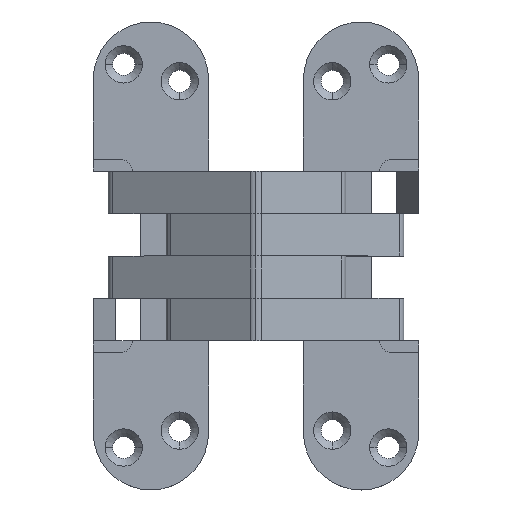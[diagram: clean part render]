
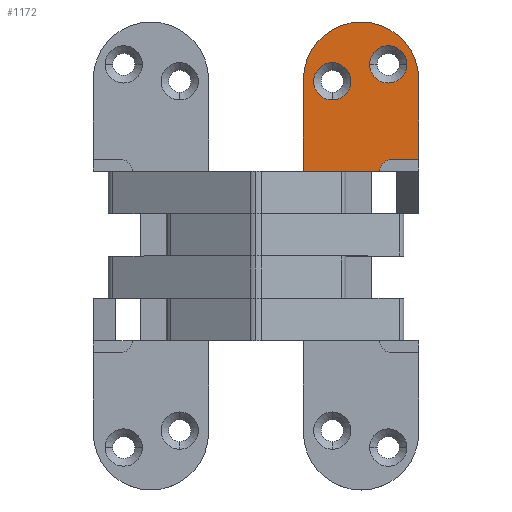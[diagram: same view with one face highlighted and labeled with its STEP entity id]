
A CAD part, top view. The second image highlights one B-rep face of the part: STEP entity #1172.
In plain terms, the highlighted planar face has unit normal (0, 0, 1).
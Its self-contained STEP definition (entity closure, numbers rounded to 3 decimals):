
#17 = LINE ( 'NONE', #3107, #395 ) ;
#46 = ORIENTED_EDGE ( 'NONE', *, *, #2376, .T. ) ;
#59 = ORIENTED_EDGE ( 'NONE', *, *, #2310, .F. ) ;
#77 = ORIENTED_EDGE ( 'NONE', *, *, #2397, .F. ) ;
#159 = ORIENTED_EDGE ( 'NONE', *, *, #2224, .F. ) ;
#254 = ORIENTED_EDGE ( 'NONE', *, *, #2441, .F. ) ;
#280 = ORIENTED_EDGE ( 'NONE', *, *, #2506, .F. ) ;
#296 = ORIENTED_EDGE ( 'NONE', *, *, #2399, .T. ) ;
#364 = ORIENTED_EDGE ( 'NONE', *, *, #2373, .T. ) ;
#395 = VECTOR ( 'NONE', #3208, 1000. ) ;
#465 = ORIENTED_EDGE ( 'NONE', *, *, #2400, .F. ) ;
#470 = ORIENTED_EDGE ( 'NONE', *, *, #2442, .T. ) ;
#475 = EDGE_LOOP ( 'NONE', ( #296, #254, #46, #470, #364, #465 ) ) ;
#529 = CIRCLE ( 'NONE', #2642, 5.5 ) ;
#542 = CIRCLE ( 'NONE', #2617, 5.5 ) ;
#588 = EDGE_LOOP ( 'NONE', ( #77, #159 ) ) ;
#589 = EDGE_LOOP ( 'NONE', ( #280, #59 ) ) ;
#714 = FACE_OUTER_BOUND ( 'NONE', #475, .T. ) ;
#726 = FACE_BOUND ( 'NONE', #588, .T. ) ;
#728 = FACE_BOUND ( 'NONE', #589, .T. ) ;
#792 = CIRCLE ( 'NONE', #2678, 5.5 ) ;
#845 = CIRCLE ( 'NONE', #2663, 5.5 ) ;
#895 = VECTOR ( 'NONE', #3264, 1000. ) ;
#945 = CIRCLE ( 'NONE', #2635, 17. ) ;
#977 = LINE ( 'NONE', #3213, #978 ) ;
#978 = VECTOR ( 'NONE', #3005, 1000. ) ;
#981 = LINE ( 'NONE', #2940, #895 ) ;
#1073 = CIRCLE ( 'NONE', #2650, 3.5 ) ;
#1075 = VECTOR ( 'NONE', #3223, 1000. ) ;
#1076 = LINE ( 'NONE', #2767, #1075 ) ;
#1172 = ADVANCED_FACE ( 'NONE', ( #714, #728, #726 ), #1951, .F. ) ;
#1518 = VERTEX_POINT ( 'NONE', #1853 ) ;
#1532 = VERTEX_POINT ( 'NONE', #1848 ) ;
#1596 = VERTEX_POINT ( 'NONE', #1796 ) ;
#1614 = VERTEX_POINT ( 'NONE', #1778 ) ;
#1623 = VERTEX_POINT ( 'NONE', #1769 ) ;
#1631 = VERTEX_POINT ( 'NONE', #2095 ) ;
#1666 = VERTEX_POINT ( 'NONE', #2075 ) ;
#1677 = VERTEX_POINT ( 'NONE', #2064 ) ;
#1693 = VERTEX_POINT ( 'NONE', #2055 ) ;
#1699 = VERTEX_POINT ( 'NONE', #2049 ) ;
#1769 = CARTESIAN_POINT ( 'NONE',  ( -9., 57., 12. ) ) ;
#1778 = CARTESIAN_POINT ( 'NONE',  ( 2., 56.5, 12. ) ) ;
#1796 = CARTESIAN_POINT ( 'NONE',  ( 8.5, 28.5, 12. ) ) ;
#1848 = CARTESIAN_POINT ( 'NONE',  ( -17.5, 52., 12. ) ) ;
#1853 = CARTESIAN_POINT ( 'NONE',  ( 16.5, 52., 12. ) ) ;
#1949 = DIRECTION ( 'NONE',  ( 0., 0., -1. ) ) ;
#1950 = DIRECTION ( 'NONE',  ( -1., 0., 0. ) ) ;
#1951 = PLANE ( 'NONE',  #2249 ) ;
#1953 = CARTESIAN_POINT ( 'NONE',  ( -0.5, -52., 12. ) ) ;
#2028 = DIRECTION ( 'NONE',  ( 0., -1., 0. ) ) ;
#2029 = DIRECTION ( 'NONE',  ( 0., 0., 1. ) ) ;
#2031 = CARTESIAN_POINT ( 'NONE',  ( -9., 51.5, 12. ) ) ;
#2049 = CARTESIAN_POINT ( 'NONE',  ( -9., 46., 12. ) ) ;
#2055 = CARTESIAN_POINT ( 'NONE',  ( 16.5, 28.5, 12. ) ) ;
#2064 = CARTESIAN_POINT ( 'NONE',  ( 5., 25., 12. ) ) ;
#2075 = CARTESIAN_POINT ( 'NONE',  ( -17.5, 25., 12. ) ) ;
#2095 = CARTESIAN_POINT ( 'NONE',  ( 13., 56.5, 12. ) ) ;
#2144 = DIRECTION ( 'NONE',  ( 1., 0., 0. ) ) ;
#2145 = DIRECTION ( 'NONE',  ( 0., 0., 1. ) ) ;
#2151 = CARTESIAN_POINT ( 'NONE',  ( 7.5, 56.5, 12. ) ) ;
#2224 = EDGE_CURVE ( 'NONE', #1623, #1699, #792, .T. ) ;
#2249 = AXIS2_PLACEMENT_3D ( 'NONE', #1953, #1949, #1950 ) ;
#2310 = EDGE_CURVE ( 'NONE', #1614, #1631, #845, .T. ) ;
#2373 = EDGE_CURVE ( 'NONE', #1677, #1596, #1073, .T. ) ;
#2376 = EDGE_CURVE ( 'NONE', #1532, #1666, #1076, .T. ) ;
#2397 = EDGE_CURVE ( 'NONE', #1699, #1623, #529, .T. ) ;
#2399 = EDGE_CURVE ( 'NONE', #1693, #1518, #17, .T. ) ;
#2400 = EDGE_CURVE ( 'NONE', #1693, #1596, #977, .T. ) ;
#2441 = EDGE_CURVE ( 'NONE', #1532, #1518, #945, .T. ) ;
#2442 = EDGE_CURVE ( 'NONE', #1666, #1677, #981, .T. ) ;
#2506 = EDGE_CURVE ( 'NONE', #1631, #1614, #542, .T. ) ;
#2617 = AXIS2_PLACEMENT_3D ( 'NONE', #3016, #2777, #2792 ) ;
#2635 = AXIS2_PLACEMENT_3D ( 'NONE', #2988, #3308, #2897 ) ;
#2642 = AXIS2_PLACEMENT_3D ( 'NONE', #3090, #3058, #2776 ) ;
#2650 = AXIS2_PLACEMENT_3D ( 'NONE', #3316, #3070, #2925 ) ;
#2663 = AXIS2_PLACEMENT_3D ( 'NONE', #2151, #2145, #2144 ) ;
#2678 = AXIS2_PLACEMENT_3D ( 'NONE', #2031, #2029, #2028 ) ;
#2767 = CARTESIAN_POINT ( 'NONE',  ( -17.5, -52., 12. ) ) ;
#2776 = DIRECTION ( 'NONE',  ( 0., -1., 0. ) ) ;
#2777 = DIRECTION ( 'NONE',  ( 0., 0., 1. ) ) ;
#2792 = DIRECTION ( 'NONE',  ( 1., 0., 0. ) ) ;
#2897 = DIRECTION ( 'NONE',  ( -1., 0., 0. ) ) ;
#2925 = DIRECTION ( 'NONE',  ( 1., 0., 0. ) ) ;
#2940 = CARTESIAN_POINT ( 'NONE',  ( 10., 25., 12. ) ) ;
#2988 = CARTESIAN_POINT ( 'NONE',  ( -0.5, 52., 12. ) ) ;
#3005 = DIRECTION ( 'NONE',  ( -1., 0., 0. ) ) ;
#3016 = CARTESIAN_POINT ( 'NONE',  ( 7.5, 56.5, 12. ) ) ;
#3058 = DIRECTION ( 'NONE',  ( 0., 0., 1. ) ) ;
#3070 = DIRECTION ( 'NONE',  ( 0., 0., -1. ) ) ;
#3090 = CARTESIAN_POINT ( 'NONE',  ( -9., 51.5, 12. ) ) ;
#3107 = CARTESIAN_POINT ( 'NONE',  ( 16.5, -52., 12. ) ) ;
#3208 = DIRECTION ( 'NONE',  ( 0., 1., 0. ) ) ;
#3213 = CARTESIAN_POINT ( 'NONE',  ( -0.5, 28.5, 12. ) ) ;
#3223 = DIRECTION ( 'NONE',  ( 0., -1., 0. ) ) ;
#3264 = DIRECTION ( 'NONE',  ( 1., 0., 0. ) ) ;
#3308 = DIRECTION ( 'NONE',  ( 0., 0., -1. ) ) ;
#3316 = CARTESIAN_POINT ( 'NONE',  ( 8.5, 25., 12. ) ) ;
